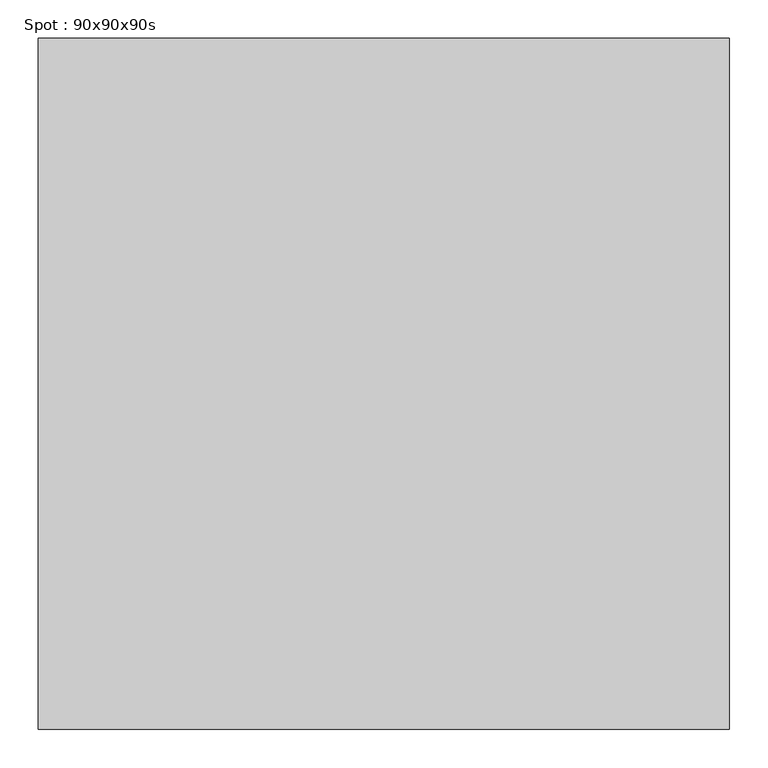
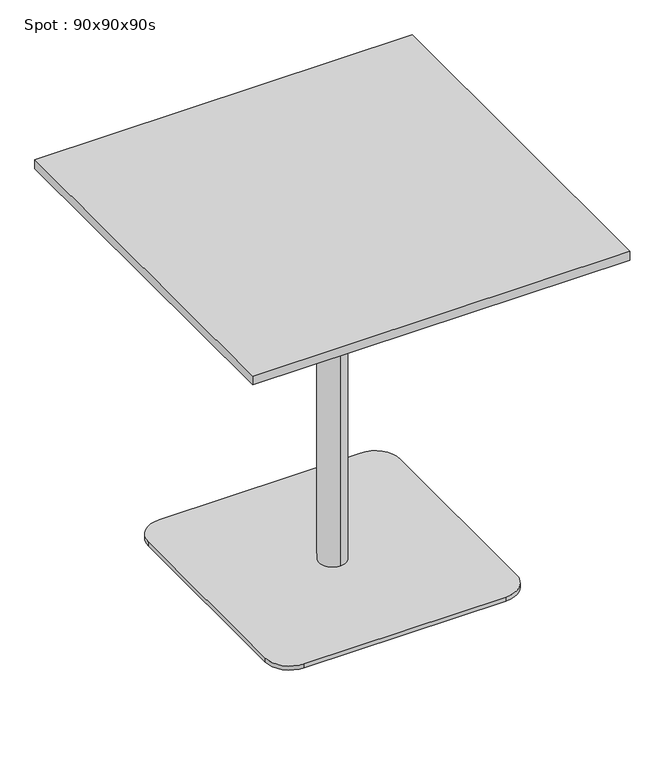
"""IFC4 building model written with IfcOpenShell, lengths in millimetres: furniture geometry, Spot : 90x90x90s."""

from ifc_helpers import new_model, si_unit, point, frame, frame_2d, origin, origin_with_axes, place, context, project, spatial, polyline, circle_curve, trimmed, segment, composite_curve, outline, extrude, source, transform, mapped, element, save
from ifc_brep_helpers import plane_surface, cylinder_surface, revolved_surface, advanced_brep


def spot_90x90x90s_c2216ceb(model_context):
    return source(origin(), model_context, "Body", "SolidModel", [
        extrude(outline(polyline([(450.0, 450.0), (450.0, -450.0), (-450.0, -450.0), (-450.0, 450.0), (450.0, 450.0)])), frame((0.0, 0.0, 878.0), z_axis=(0.0, 0.0, 1.0), x_axis=(1.0, 0.0, 0.0)), (0.0, 0.0, 1.0), 22.0),
        extrude(outline(composite_curve([segment(trimmed(circle_curve(frame_2d((240.0, 240.0)), 60.0), [point((240.0, 300.0))], [point((300.0, 240.0))], False, "CARTESIAN"), True, "CONTINUOUS"), segment(polyline([(300.0, 240.0), (300.0, -240.0)]), True, "CONTINUOUS"), segment(trimmed(circle_curve(frame_2d((240.0, -240.0)), 60.0), [point((300.0, -240.0))], [point((240.0, -300.0))], False, "CARTESIAN"), True, "CONTINUOUS"), segment(polyline([(240.0, -300.0), (-240.0, -300.0)]), True, "CONTINUOUS"), segment(trimmed(circle_curve(frame_2d((-240.0, -240.0)), 60.0), [point((-240.0, -300.0))], [point((-300.0, -240.0))], False, "CARTESIAN"), True, "CONTINUOUS"), segment(polyline([(-300.0, -240.0), (-300.0, 240.0)]), True, "CONTINUOUS"), segment(trimmed(circle_curve(frame_2d((-240.0, 240.0)), 60.0), [point((-300.0, 240.0))], [point((-240.0, 300.0))], False, "CARTESIAN"), True, "CONTINUOUS"), segment(polyline([(-240.0, 300.0), (240.0, 300.0)]), True, "CONTINUOUS")], self_intersect=False)), origin_with_axes(), (0.0, 0.0, 1.0), 10.0),
        advanced_brep(
        [(0.0, 32.0, 10.0), (0.0, -32.0, 10.0), (0.0, -32.0, 847.406916), (0.0, 32.0, 847.406916), (0.0, 0.0, 10.0), (0.0, 150.0, 878.0), (0.0, -150.0, 878.0), (0.0, 0.0, 878.0), (0.0, 150.0, 866.7213673), (0.0, -150.0, 866.7213673)],
        [
            (0, 1, circle_curve(frame((0.0, 0.0, 10.0), z_axis=(0.0, 0.0, 1.0), x_axis=(0.0, -1.0, 0.0)), 32.0)),
            (1, 2),
            (2, 3, circle_curve(frame((0.0, 0.0, 847.406916), z_axis=(0.0, 0.0, -1.0), x_axis=(0.0, -1.0, 0.0)), 32.0)),
            (3, 0),
            (1, 0, circle_curve(frame((0.0, 0.0, 10.0), z_axis=(0.0, 0.0, 1.0), x_axis=(0.0, -1.0, 0.0)), 32.0)),
            (3, 2, circle_curve(frame((0.0, 0.0, 847.406916), z_axis=(0.0, 0.0, -1.0), x_axis=(0.0, -1.0, 0.0)), 32.0)),
            (4, 1),
            (0, 4),
            (5, 6, circle_curve(frame((0.0, 0.0, 878.0), z_axis=(0.0, 0.0, 1.0), x_axis=(0.0, -1.0, 0.0)), 150.0)),
            (6, 7),
            (7, 5),
            (6, 5, circle_curve(frame((0.0, 0.0, 878.0), z_axis=(0.0, 0.0, 1.0), x_axis=(0.0, -1.0, 0.0)), 150.0)),
            (8, 9, circle_curve(frame((0.0, 0.0, 866.7213673), z_axis=(0.0, 0.0, 1.0), x_axis=(0.0, -1.0, 0.0)), 150.0)),
            (9, 6),
            (5, 8),
            (9, 8, circle_curve(frame((0.0, 0.0, 866.7213673), z_axis=(0.0, 0.0, 1.0), x_axis=(0.0, -1.0, 0.0)), 150.0)),
            (2, 9),
            (8, 3),
        ],
        [
            cylinder_surface(frame((0.0, 0.0, 1240.0), z_axis=(0.0, 0.0, -1.0), x_axis=(0.0, -1.0, 0.0)), 32.0),
            plane_surface(frame((0.0, 0.0, 10.0), z_axis=(0.0, 0.0, -1.0), x_axis=(0.0, -1.0, 0.0))),
            plane_surface(frame((0.0, 0.0, 878.0), z_axis=(0.0, 0.0, 1.0), x_axis=(0.0, -1.0, 0.0))),
            cylinder_surface(frame((0.0, 0.0, 1240.0), z_axis=(0.0, 0.0, -1.0), x_axis=(0.0, -1.0, 0.0)), 150.0),
            revolved_surface(polyline([(0.0, -150.0, 866.7213673), (0.0, -32.0, 847.406916)]), (0.0, 0.0, 1240.0), (0.0, 0.0, -1.0)),
        ],
        [
            (0, [[1, 2, 3, 4]]),
            (0, [[5, -4, 6, -2]]),
            (1, [[7, -1, 8]]),
            (1, [[-8, -5, -7]]),
            (2, [[9, 10, 11]]),
            (2, [[12, -11, -10]]),
            (3, [[13, 14, -9, 15]]),
            (3, [[16, -15, -12, -14]]),
            (4, [[-3, 17, -13, 18]]),
            (4, [[-6, -18, -16, -17]]),
        ],
    ),
        extrude(outline(polyline([(0.0, 0.0), (-20.0, 0.0), (-20.0, 20.0), (0.0, 20.0), (0.0, 0.0)])), origin_with_axes(), (0.0, 0.0, 1.0), 10.0),
    ])


if __name__ == "__main__":
    model = new_model("IFC4")
    model_context = context("Model", 3, world=origin())
    ifc_project = project(units=[si_unit("LENGTHUNIT", "METRE", prefix="MILLI")], contexts=[model_context])
    site = spatial("IfcSite", under=ifc_project)
    building = spatial("IfcBuilding", under=site)
    placement = place(None, origin())
    spot_90x90x90s_shape = spot_90x90x90s_c2216ceb(model_context)
    element("IfcFurniture", 1, ObjectType="Spot : 90x90x90s", at=placement, inside=building, context=model_context, shape_type="MappedRepresentation", body=[
        mapped(spot_90x90x90s_shape, transform((0.0, 0.0, 0.0), x_axis=(1.0, 0.0, 0.0), y_axis=(0.0, 1.0, 0.0), z_axis=(0.0, 0.0, 1.0))),
    ])
    save(model, "model.ifc")
